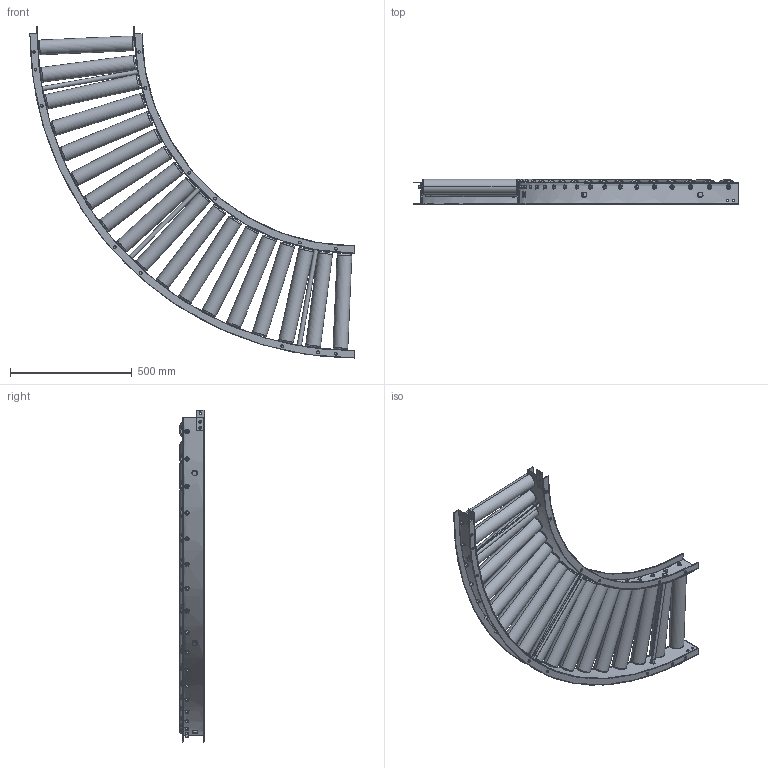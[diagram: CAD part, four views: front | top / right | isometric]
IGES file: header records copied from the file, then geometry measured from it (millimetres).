
Start section: SolidWorks IGES file using analytic representation for surfaces
Global section: file name: C:\Users\0656\Desktop\変換ツール\iges変換\S-6023NB_C.igs; native system: SolidWorks 2023; preprocessor: SolidWorks 2023; author: 0656; date: 240302.141308; units: millimetre
Bounding box: 1330 x 101.75 x 1361.57 mm (x, y, z)
Surface area: 3365684.3 mm2 (no closed solid volume)
Topology: 0 solids, 0 shells, 1102 faces, 19032 edges, 19032 vertices
Faces by surface type: bspline 660, revolution 442
